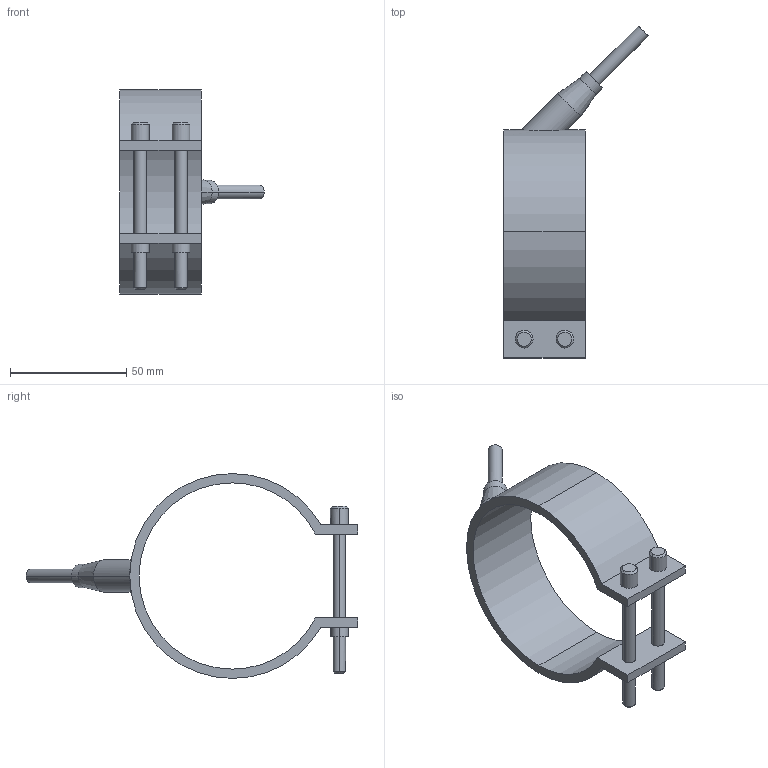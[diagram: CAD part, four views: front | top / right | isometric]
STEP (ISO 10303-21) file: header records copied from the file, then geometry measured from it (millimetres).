
FILE_DESCRIPTION(('CATIA V5 STEP Exchange'),'2;1');
FILE_NAME('C:\Users\Utente\Desktop\IO LAVORO\3D X SITO CF\X SITO\PLASTICA\RF1\29080035.stp','2021-03-29T18:10:13+00:00',('none'),('none'),'CATIA Version 5 Release 20 GA (IN-10)','CATIA V5 STEP AP203','none');
FILE_SCHEMA(('CONFIG_CONTROL_DESIGN'));
Length unit declared in the file: millimetre
Products named in the file (1): 29080035
Bounding box: 62.05 x 142.55 x 88 mm (x, y, z)
Volume: 44069.9 mm3; surface area: 24118.4 mm2
Topology: 1 solids, 1 shells, 54 faces, 123 edges, 79 vertices
Faces by surface type: cylinder 28, plane 16, cone 10
Entity records: 1740 total; most frequent: CARTESIAN_POINT 510, ORIENTED_EDGE 246, DIRECTION 212, EDGE_CURVE 123, AXIS2_PLACEMENT_3D 105, VERTEX_POINT 79, EDGE_LOOP 66, VECTOR 56
